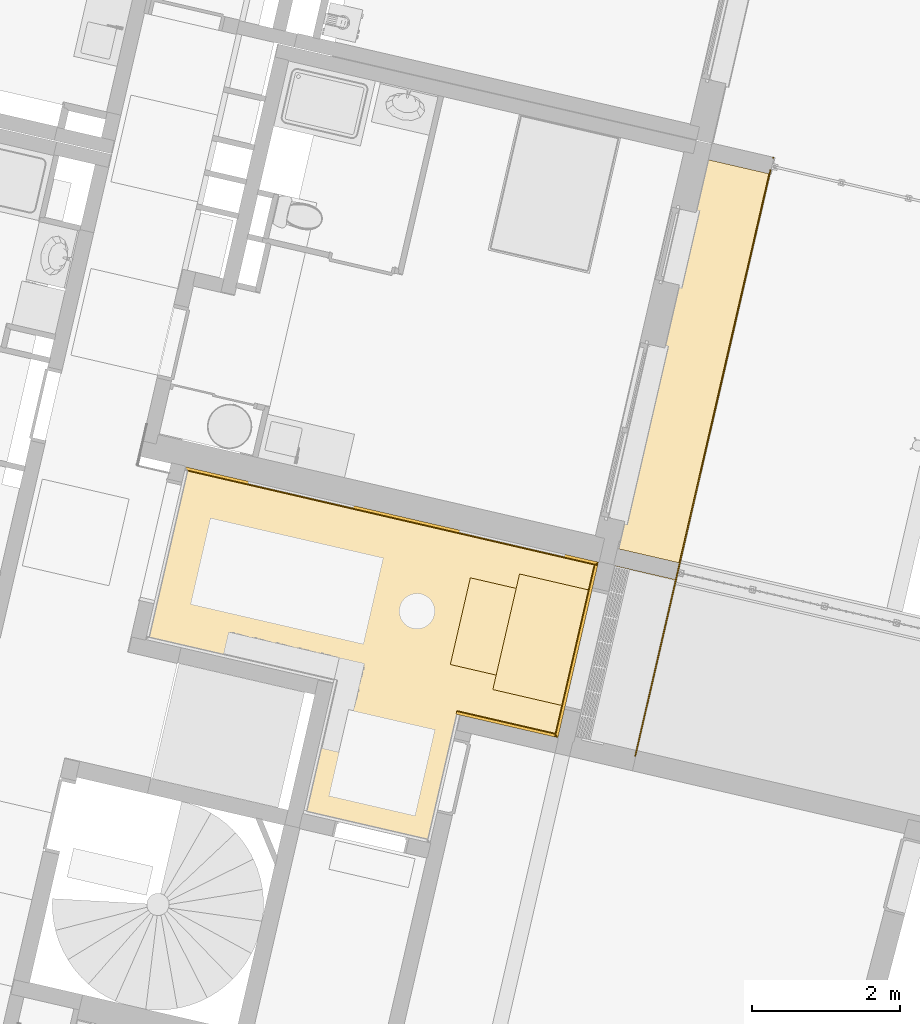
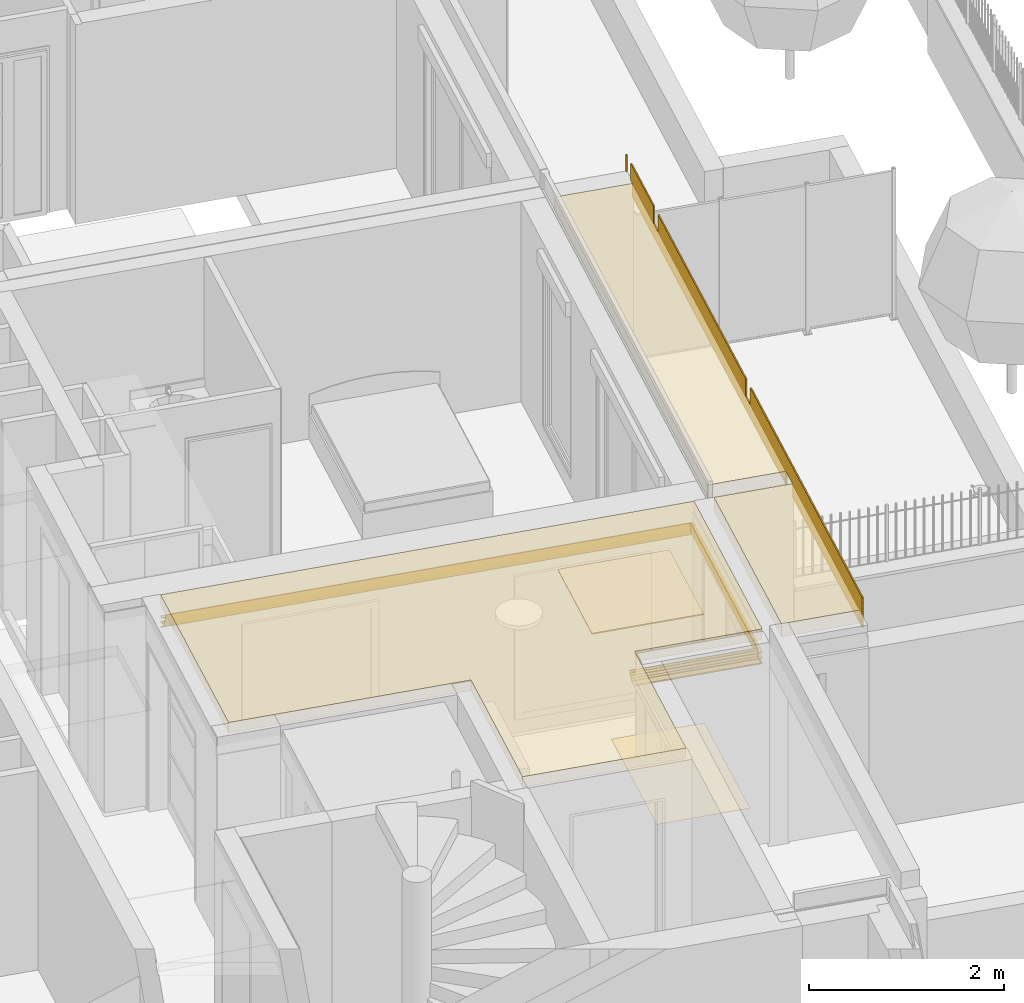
# One storey, part 75 of 119: 8 coverings.
"""IFC2X3 building model written with IfcOpenShell, lengths in metres."""

from ifc_helpers import new_model, entity, si_unit, converted_unit, derived_unit, money_unit, direction, frame, origin_with_axes, place, context, subcontext, project, spatial, open_shell, faceted_brep, surface_model, material, material_list, type_object, element, save


model = new_model("IFC2X3")

# Units and contexts
model_context = context("Model", 3, precision=1e-05, world=origin_with_axes(), true_north=direction((0.0, 1.0)))
body_context = subcontext(model_context, "Body", "Model", "MODEL_VIEW")
ifc_project = project(units=[si_unit("LENGTHUNIT", "METRE"), si_unit("AREAUNIT", "SQUARE_METRE"), si_unit("VOLUMEUNIT", "CUBIC_METRE"), converted_unit("PLANEANGLEUNIT", "DEGREE", entity("IfcPlaneAngleMeasure", 0.0174532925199), si_unit("PLANEANGLEUNIT", "RADIAN"), dimensions=[0, 0, 0, 0, 0, 0, 0]), si_unit("SOLIDANGLEUNIT", "STERADIAN"), money_unit("EUR"), converted_unit("TIMEUNIT", "Year", entity("IfcTimeMeasure", 31556926.0), si_unit("TIMEUNIT", "SECOND"), dimensions=[0, 0, 1, 0, 0, 0, 0]), si_unit("MASSUNIT", "GRAM", prefix="KILO"), si_unit("THERMODYNAMICTEMPERATUREUNIT", "DEGREE_CELSIUS"), si_unit("LUMINOUSINTENSITYUNIT", "LUMEN"), si_unit("ENERGYUNIT", "JOULE", prefix="MEGA"), derived_unit("THERMALCONDUCTANCEUNIT", [(si_unit("POWERUNIT", "WATT"), 1), (si_unit("LENGTHUNIT", "METRE"), -1), (si_unit("THERMODYNAMICTEMPERATUREUNIT", "KELVIN"), -1)]), derived_unit("SPECIFICHEATCAPACITYUNIT", [(si_unit("ENERGYUNIT", "JOULE"), 1), (si_unit("MASSUNIT", "GRAM", prefix="KILO"), -1), (si_unit("THERMODYNAMICTEMPERATUREUNIT", "KELVIN"), -1)]), derived_unit("MASSDENSITYUNIT", [(si_unit("MASSUNIT", "GRAM", prefix="KILO"), 1), (si_unit("VOLUMEUNIT", "CUBIC_METRE"), -1)])], contexts=[model_context])

# Site, building, storey
site_placement = place(None, origin_with_axes())
site = spatial("IfcSite", under=ifc_project, at=site_placement, Name="Site", CompositionType="ELEMENT")
building_placement = place(site_placement, origin_with_axes())
building = spatial("IfcBuilding", under=site, at=building_placement, Name="Bâtiment", CompositionType="ELEMENT")
storey_placement = place(building_placement, origin_with_axes())
storey = spatial("IfcBuildingStorey", under=building, at=storey_placement, Name="Rez-de-chaussée", CompositionType="ELEMENT", Elevation=0.0)

# Coverings
ifc_material_1 = material(Name="Finition int - Plaque de plâtre ACOUSTIQUE type GYPTONE")
covering_type_1 = type_object("IfcCoveringType", Name="Finition int - Plaque de plâtre ACOUSTIQUE type GYPTONE 15", PredefinedType="CEILING")
covering_1_placement = place(storey_placement, frame((-5.586084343, -4.45055755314, 2.392), z_axis=(0.0, 0.0, 1.0), x_axis=(1.0, 0.0, 0.0)))
element("IfcCovering", 1, at=covering_1_placement, inside=storey, type_object=covering_type_1, material=ifc_material_1, Name="Dalle_004", PredefinedType="CEILING", context=body_context, shape_type="Brep", body=[
    faceted_brep([(0.0, 0.0, 0.0), (0.0, 0.0, -0.015), (1.16926481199, -0.269851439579, -0.015), (1.16926481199, -0.269851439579, 0.0), (0.269851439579, 1.16926481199, 0.0), (0.269851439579, 1.16926481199, -0.015), (1.43911625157, 0.899413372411, -0.015), (1.43911625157, 0.899413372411, 0.0)], [[[0, 1, 2, 3]], [[4, 5, 1, 0]], [[2, 1, 5, 6]], [[3, 2, 6, 7]], [[4, 0, 3, 7]], [[7, 6, 5, 4]]]),
])
ifc_material_2 = material(Name="Isolation - Laine de verre")
ifc_material_3 = material(Name="Finition int - Plaque de plâtre")
ifc_material_list_1 = material_list([ifc_material_2, ifc_material_3])
covering_type_2 = type_object("IfcCoveringType", Name="7 - Faux-plafond BA13 isolé laine 120mm 133", PredefinedType="CEILING")
covering_2_placement = place(storey_placement, frame((-9.69538604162, -4.11282317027, 2.51), z_axis=(0.0, 0.0, 1.0), x_axis=(1.0, 0.0, 0.0)))
element("IfcCovering", 2, at=covering_2_placement, inside=storey, type_object=covering_type_2, material=ifc_material_list_1, Name="Dalle_004", PredefinedType="CEILING", context=body_context, shape_type="Brep", body=[
    faceted_brep([(5.57796008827, -1.28732215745, 0.0), (6.11541420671, 1.0414635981, 0.0), (0.537454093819, 2.32878576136, 0.0), (0.0, 0.0, 0.0), (2.53340705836, -0.584678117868, 0.0), (2.12638112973, -2.34831921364, 0.0), (3.83643093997, -2.74297689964, 0.0), (4.2434568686, -0.979335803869, 0.0), (6.11541420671, 1.0414635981, -0.12), (5.57796008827, -1.28732215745, -0.12), (0.537454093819, 2.32878576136, -0.12), (0.0, 0.0, -0.12), (2.53340705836, -0.584678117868, -0.12), (2.12638112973, -2.34831921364, -0.12), (3.83643093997, -2.74297689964, -0.12), (4.2434568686, -0.979335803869, -0.12)], [[[0, 1, 2, 3, 4, 5, 6, 7]], [[8, 1, 0, 9]], [[1, 8, 10, 2]], [[10, 11, 3, 2]], [[11, 12, 4, 3]], [[12, 13, 5, 4]], [[13, 14, 6, 5]], [[14, 15, 7, 6]], [[9, 0, 7, 15]], [[8, 9, 15, 14, 13, 12, 11, 10]]]),
    faceted_brep([(5.57796008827, -1.28732215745, -0.12), (6.11541420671, 1.0414635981, -0.12), (0.537454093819, 2.32878576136, -0.12), (0.0, 0.0, -0.12), (2.53340705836, -0.584678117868, -0.12), (2.12638112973, -2.34831921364, -0.12), (3.83643093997, -2.74297689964, -0.12), (4.2434568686, -0.979335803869, -0.12), (6.11541420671, 1.0414635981, -0.133), (5.57796008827, -1.28732215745, -0.133), (0.537454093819, 2.32878576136, -0.133), (0.0, 0.0, -0.133), (2.53340705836, -0.584678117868, -0.133), (2.12638112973, -2.34831921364, -0.133), (3.83643093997, -2.74297689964, -0.133), (4.2434568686, -0.979335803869, -0.133)], [[[0, 1, 2, 3, 4, 5, 6, 7]], [[8, 1, 0, 9]], [[1, 8, 10, 2]], [[2, 10, 11, 3]], [[3, 11, 12, 4]], [[4, 12, 13, 5]], [[5, 13, 14, 6]], [[6, 14, 15, 7]], [[9, 0, 7, 15]], [[8, 9, 15, 14, 13, 12, 11, 10]]]),
])
ifc_material_4 = material(Name="Isolation - Polystyrène extrudé")
ifc_material_5 = material(Name="Finition int - Plaque de plâtre extérieure 13mm")
ifc_material_list_2 = material_list([ifc_material_4, ifc_material_5])
covering_type_3 = type_object("IfcCoveringType", Name="7 - Isolation FYBRASTYROC 150mm sous plancher 165", PredefinedType="INSULATION")
covering_3_placement = place(storey_placement, frame((-3.93041915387, -5.47922413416, 2.51), z_axis=(0.0, 0.0, 1.0), x_axis=(1.0, 0.0, 0.0)))
element("IfcCovering", 3, at=covering_3_placement, inside=storey, type_object=covering_type_3, material=ifc_material_list_2, Name="Dalle_003", PredefinedType="INSULATION", context=body_context, shape_type="Brep", body=[
    faceted_brep([(1.38033830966, 2.17531025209, -0.15), (1.38033830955, 2.17531025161, 0.0), (0.848506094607, -0.129115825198, 0.0), (0.848506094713, -0.129115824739, -0.15), (0.561064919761, 2.36438811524, 0.0), (0.56106491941, 2.36438811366, -0.15), (0.02923275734, 0.0599620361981, 0.0), (0.0292327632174, 0.0599620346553, -0.15)], [[[0, 1, 2, 3]], [[4, 1, 0, 5]], [[1, 4, 6, 2]], [[6, 7, 3, 2]], [[5, 0, 3, 7]], [[4, 5, 7, 6]]]),
    faceted_brep([(2.64338009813, 7.64806340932, -0.15), (2.64338009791, 7.64806340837, 0.0), (1.43205983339, 2.39941933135, 0.0), (1.43205983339, 2.39941933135, -0.15), (1.82410674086, 7.83714127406, 0.0), (1.82410674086, 7.83714127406, -0.15), (0.612786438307, 2.58849720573, 0.0), (0.612786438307, 2.58849720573, -0.15)], [[[0, 1, 2, 3]], [[4, 1, 0, 5]], [[1, 4, 6, 2]], [[3, 2, 6, 7]], [[5, 0, 3, 7]], [[4, 5, 7, 6]]]),
    faceted_brep([(1.38033830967, 2.17531025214, -0.165), (1.38033830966, 2.17531025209, -0.15), (0.848506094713, -0.129115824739, -0.15), (0.848506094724, -0.129115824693, -0.165), (0.56106491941, 2.36438811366, -0.15), (0.561064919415, 2.36438811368, -0.165), (0.0292327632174, 0.0599620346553, -0.15), (0.0292327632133, 0.0599620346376, -0.165)], [[[0, 1, 2, 3]], [[4, 1, 0, 5]], [[1, 4, 6, 2]], [[6, 7, 3, 2]], [[5, 0, 3, 7]], [[4, 5, 7, 6]]]),
    faceted_brep([(2.64338009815, 7.64806340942, -0.165), (2.64338009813, 7.64806340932, -0.15), (1.43205983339, 2.39941933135, -0.15), (1.43205983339, 2.39941933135, -0.165), (1.82410674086, 7.83714127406, -0.15), (1.82410674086, 7.83714127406, -0.165), (0.612786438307, 2.58849720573, -0.15), (0.612786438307, 2.58849720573, -0.165)], [[[0, 1, 2, 3]], [[4, 1, 0, 5]], [[1, 4, 6, 2]], [[3, 2, 6, 7]], [[5, 0, 3, 7]], [[4, 5, 7, 6]]]),
])
ifc_material_6 = material(Name="Finition sol - Carrelage")
covering_type_4 = type_object("IfcCoveringType", Name="Corniche lumineuse 50 x 180", PredefinedType="USERDEFINED")
covering_4_placement = place(storey_placement, frame((-4.13418479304, -5.43732904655, 2.1), z_axis=(0.0, 0.0, 1.0), x_axis=(-0.974387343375, 0.224876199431, 0.0)))
element("IfcCovering", 4, at=covering_4_placement, inside=storey, type_object=covering_type_4, material=ifc_material_6, Name="M_Ext-009", ObjectType="MOLDING", PredefinedType="USERDEFINED", context=body_context, shape_type="Brep", body=[
    faceted_brep([(1.36713537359, -0.00552140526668, 0.0012378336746), (0.00552140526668, -0.00552140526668, 0.00123783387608), (0.0, 1.75416037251e-09, 0.0), (1.36161396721, 0.0, 0.0), (1.37208394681, -0.0104699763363, 0.00447108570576), (0.0104699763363, -0.0104699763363, 0.00447108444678), (0.00552140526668, 1.75416037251e-09, 0.00123783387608), (0.0104699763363, 1.75416037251e-09, 0.00447108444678), (0.0150535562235, 1.75415948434e-09, 0.00999999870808), (1.37666752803, 0.0, 0.0100000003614), (1.37208394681, 0.0, 0.00447108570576), (1.36713537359, 0.0, 0.0012378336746), (1.38001870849, -0.018404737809, 0.0140423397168), (0.018404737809, -0.018404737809, 0.0140423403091), (0.018404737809, -0.00793106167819, 0.0140423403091), (0.0176884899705, -0.00728579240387, 0.0131783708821), (0.0157136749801, -0.00365822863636, 0.0107962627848), (1.37732764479, -0.00365822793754, 0.0107962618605), (1.37930246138, -0.00728579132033, 0.0131783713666), (1.38001870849, -0.00793105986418, 0.0140423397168), (1.38457703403, -0.0229630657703, 0.0223424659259), (0.0229630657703, -0.0229630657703, 0.0223424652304), (0.0229630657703, -0.0141301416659, 0.0223424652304), (0.0230765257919, -0.0143278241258, 0.0226071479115), (1.38469049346, -0.0143278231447, 0.0226071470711), (1.38457703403, -0.0141301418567, 0.0223424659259), (1.3889744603, -0.027360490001, 0.032600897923), (0.027360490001, -0.027360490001, 0.0326008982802), (0.027360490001, -0.0185426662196, 0.0326008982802), (0.0297170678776, -0.0217720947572, 0.0402581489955), (1.39133103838, -0.0217720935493, 0.0402581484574), (1.3889744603, -0.0185426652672, 0.032600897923), (1.39696931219, -0.0353553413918, 0.0585786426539), (0.0353553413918, -0.0353553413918, 0.0585786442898), (0.0353553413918, -0.0267066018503, 0.0585786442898), (0.0353911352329, -0.0267542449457, 0.0587555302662), (1.39700510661, -0.0267542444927, 0.058755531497), (1.39696931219, -0.0267066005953, 0.0585786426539), (1.40344701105, -0.041833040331, 0.0905901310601), (0.041833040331, -0.041833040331, 0.0905901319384), (0.041833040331, -0.0322835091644, 0.0905901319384), (0.0400141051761, -0.0311721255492, 0.0816013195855), (0.0397780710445, -0.0305159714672, 0.0804348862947), (0.0396786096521, -0.0292711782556, 0.0799433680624), (0.0394717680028, -8.21932744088e-10, 0.0789211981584), (0.037871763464, -1.05185398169e-07, 0.0710142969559), (0.0376830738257, -0.0267024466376, 0.0700818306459), (0.0375300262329, -0.0281999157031, 0.0693255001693), (0.0372000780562, -0.0285946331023, 0.067694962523), (1.39881404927, -0.0285946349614, 0.0676949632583), (1.40129258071, -0.0292711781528, 0.0799433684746), (1.40139204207, -0.0305159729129, 0.0804348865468), (1.40162807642, -0.031172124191, 0.081601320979), (1.40344701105, -0.0322835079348, 0.0905901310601), (1.39914399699, -0.0281999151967, 0.0693254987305), (1.39929704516, -0.0267024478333, 0.0700818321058), (1.3994857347, 0.0, 0.0710142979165), (1.40108573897, 0.0, 0.0789211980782), (1.40810338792, -0.0464894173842, 0.126381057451), (0.0464894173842, -0.0464894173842, 0.126381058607), (0.0464894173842, -0.0367087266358, 0.126381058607), (0.0474099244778, -0.0381359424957, 0.13792430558), (1.40902389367, -0.0381359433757, 0.137924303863), (1.40810338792, -0.0367087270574, 0.126381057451), (1.41023865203, -0.0486246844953, 0.153157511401), (0.0486246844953, -0.0486246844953, 0.153157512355), (0.0486246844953, -0.0390485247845, 0.153157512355), (0.0485190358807, -0.039012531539, 0.151832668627), (0.0484134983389, -0.0384178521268, 0.15050921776), (0.0483677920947, -0.0370849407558, 0.149936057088), (0.0482645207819, 1.75415948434e-09, 0.148641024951), (0.0476820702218, 1.75416037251e-09, 0.141337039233), (0.0475812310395, -0.0362113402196, 0.140072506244), (0.0475282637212, -0.037631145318, 0.139408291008), (1.40914223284, -0.0376311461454, 0.139408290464), (1.4099817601, -0.0370849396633, 0.149936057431), (1.41002746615, -0.0384178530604, 0.150509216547), (1.4101330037, -0.039012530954, 0.151832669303), (1.41023865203, -0.0390485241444, 0.153157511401), (1.40919520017, -0.036211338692, 0.140072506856), (1.40929603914, 0.0, 0.141337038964), (1.40987848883, 0.0, 0.14864102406), (1.41137128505, -0.0497573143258, 0.179999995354), (0.0497573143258, -0.0497573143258, 0.179999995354), (0.0497573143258, -0.039777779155, 0.179999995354), (1.41137128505, -0.0397777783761, 0.179999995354)], [[[0, 1, 2, 3]], [[4, 5, 1, 0]], [[1, 6, 2]], [[6, 7, 8, 9, 10, 11, 3, 2]], [[11, 0, 3]], [[12, 13, 5, 4]], [[6, 1, 5, 7]], [[4, 0, 11, 10]], [[7, 5, 13, 14, 15, 16, 8]], [[9, 8, 16, 17]], [[9, 17, 18, 19, 12, 4, 10]], [[20, 21, 13, 12]], [[14, 13, 21, 22]], [[14, 22, 23, 24, 25, 19, 18, 15]], [[17, 16, 15, 18]], [[20, 12, 19, 25]], [[26, 27, 21, 20]], [[22, 21, 27, 28, 23]], [[23, 28, 29, 30, 31, 24]], [[20, 25, 24, 31, 26]], [[32, 33, 27, 26]], [[28, 27, 33, 34, 29]], [[29, 34, 35, 36, 37, 30]], [[26, 31, 30, 37, 32]], [[38, 39, 33, 32]], [[34, 33, 39, 40, 41, 42, 43, 44, 45, 46, 47, 48, 35]], [[36, 35, 48, 49]], [[50, 51, 52, 53, 38, 32, 37, 36, 49, 54, 55, 56, 57]], [[58, 59, 39, 38]], [[40, 39, 59, 60]], [[40, 60, 61, 62, 63, 53, 52, 41]], [[51, 42, 41, 52]], [[50, 43, 42, 51]], [[57, 44, 43, 50]], [[56, 45, 44, 57]], [[55, 46, 45, 56]], [[54, 47, 46, 55]], [[49, 48, 47, 54]], [[58, 38, 53, 63]], [[64, 65, 59, 58]], [[60, 59, 65, 66, 67, 68, 69, 70, 71, 72, 73, 61]], [[62, 61, 73, 74]], [[75, 76, 77, 78, 64, 58, 63, 62, 74, 79, 80, 81]], [[82, 83, 65, 64]], [[66, 65, 83, 84]], [[67, 66, 84, 85, 78, 77]], [[76, 68, 67, 77]], [[75, 69, 68, 76]], [[81, 70, 69, 75]], [[80, 71, 70, 81]], [[79, 72, 71, 80]], [[74, 73, 72, 79]], [[82, 64, 78, 85]], [[85, 84, 83, 82]]]),
])
covering_5_placement = place(storey_placement, frame((-9.15793192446, -1.78403737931, 2.1), z_axis=(0.0, 0.0, 1.0), x_axis=(0.974387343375, -0.224876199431, 0.0)))
element("IfcCovering", 5, at=covering_5_placement, inside=storey, type_object=covering_type_4, material=ifc_material_6, Name="M_Ext-008", ObjectType="MOLDING", PredefinedType="USERDEFINED", context=body_context, shape_type="Brep", body=[
    faceted_brep([(5.67760143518, -0.039012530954, 0.151832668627), (0.039012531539, -0.039012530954, 0.151832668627), (0.039777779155, -0.0397777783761, 0.179999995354), (5.67683618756, -0.0397777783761, 0.179999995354), (5.67819611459, -0.0384178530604, 0.15050921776), (0.0384178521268, -0.0384178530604, 0.15050921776), (0.0390485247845, -0.0486246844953, 0.153157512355), (0.039777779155, -0.0497573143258, 0.179999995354), (0.039012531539, -0.0485190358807, 0.151832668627), (5.67683618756, -0.0497573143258, 0.179999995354), (5.67760143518, -0.0485190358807, 0.151832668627), (5.67756544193, -0.0486246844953, 0.153157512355), (5.67952902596, -0.0370849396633, 0.149936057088), (0.0370849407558, -0.0370849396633, 0.149936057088), (0.0384178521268, -0.0484134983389, 0.15050921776), (5.67819611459, -0.0484134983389, 0.15050921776), (0.037631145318, -0.0475282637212, 0.139408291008), (0.0381359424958, -0.0474099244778, 0.13792430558), (0.0367087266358, -0.0464894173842, 0.126381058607), (5.67990524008, -0.0464894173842, 0.126381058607), (5.67847802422, -0.0474099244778, 0.13792430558), (5.6789828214, -0.0475282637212, 0.139408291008), (5.6804026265, -0.0475812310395, 0.140072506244), (5.71661396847, -0.0476820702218, 0.141337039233), (5.71661396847, -0.0482645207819, 0.148641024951), (5.67952902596, -0.0483677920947, 0.149936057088), (0.0370849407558, -0.0483677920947, 0.149936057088), (-1.75415948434e-09, -0.0482645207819, 0.148641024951), (-1.75415948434e-09, -0.0476820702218, 0.141337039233), (0.0362113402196, -0.0475812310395, 0.140072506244), (5.71661396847, 0.0, 0.148641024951), (-1.75415948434e-09, 0.0, 0.148641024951), (0.037631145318, -0.0376311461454, 0.139408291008), (0.0381359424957, -0.0381359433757, 0.13792430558), (0.0311721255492, -0.031172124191, 0.0816013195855), (0.0311721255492, -0.0400141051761, 0.0816013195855), (0.0322835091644, -0.041833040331, 0.0905901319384), (5.68433045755, -0.041833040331, 0.0905901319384), (5.68544184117, -0.0400141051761, 0.0816013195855), (5.68544184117, -0.031172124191, 0.0816013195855), (5.67847802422, -0.0381359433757, 0.13792430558), (5.6789828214, -0.0376311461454, 0.139408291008), (5.6804026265, -0.036211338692, 0.140072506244), (5.71661396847, 0.0, 0.141337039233), (-1.75415948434e-09, 0.0, 0.141337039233), (0.0362113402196, -0.036211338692, 0.140072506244), (0.0305159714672, -0.0305159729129, 0.0804348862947), (0.0305159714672, -0.0397780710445, 0.0804348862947), (0.0285946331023, -0.0372000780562, 0.067694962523), (0.0267542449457, -0.0353911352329, 0.0587555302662), (0.0267066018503, -0.0353553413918, 0.0585786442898), (5.68990736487, -0.0353553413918, 0.0585786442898), (5.68985972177, -0.0353911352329, 0.0587555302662), (5.68801933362, -0.0372000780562, 0.067694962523), (5.68841405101, -0.0375300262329, 0.0693255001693), (5.68991152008, -0.0376830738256, 0.0700818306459), (5.71661386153, -0.037871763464, 0.0710142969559), (5.7166139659, -0.0394717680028, 0.0789211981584), (5.68734278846, -0.0396786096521, 0.0799433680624), (5.68609799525, -0.0397780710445, 0.0804348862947), (0.0292711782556, -0.0396786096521, 0.0799433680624), (8.21932744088e-10, -0.0394717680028, 0.0789211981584), (1.05185405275e-07, -0.037871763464, 0.0710142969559), (0.0267024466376, -0.0376830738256, 0.0700818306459), (0.0281999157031, -0.0375300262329, 0.0693255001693), (5.68609799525, -0.0305159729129, 0.0804348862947), (0.0292711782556, -0.0292711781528, 0.0799433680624), (0.0285946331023, -0.0285946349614, 0.067694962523), (0.0267542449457, -0.0267542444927, 0.0587555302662), (0.0217720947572, -0.0217720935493, 0.0402581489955), (0.0217720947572, -0.0297170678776, 0.0402581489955), (0.0185426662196, -0.027360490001, 0.0326008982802), (5.6980713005, -0.027360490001, 0.0326008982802), (5.69484187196, -0.0297170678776, 0.0402581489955), (5.69484187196, -0.0217720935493, 0.0402581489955), (5.68985972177, -0.0267542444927, 0.0587555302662), (5.68801933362, -0.0285946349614, 0.067694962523), (5.68841405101, -0.0281999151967, 0.0693255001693), (5.68991152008, -0.0267024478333, 0.0700818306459), (5.71661386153, 0.0, 0.0710142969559), (5.7166139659, 0.0, 0.0789211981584), (5.68734278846, -0.0292711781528, 0.0799433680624), (8.21932744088e-10, 0.0, 0.0789211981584), (1.05185403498e-07, 0.0, 0.0710142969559), (0.0267024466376, -0.0267024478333, 0.0700818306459), (0.0281999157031, -0.0281999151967, 0.0693255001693), (0.0143278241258, -0.0143278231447, 0.0226071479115), (0.0143278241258, -0.0230765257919, 0.0226071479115), (0.0141301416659, -0.0229630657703, 0.0223424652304), (5.70248382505, -0.0229630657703, 0.0223424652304), (5.70228614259, -0.0230765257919, 0.0226071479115), (5.70228614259, -0.0143278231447, 0.0226071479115), (0.00728579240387, -0.00728579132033, 0.0131783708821), (0.00728579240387, -0.0176884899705, 0.0131783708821), (0.00793106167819, -0.018404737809, 0.0140423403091), (5.70868290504, -0.018404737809, 0.0140423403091), (5.70932817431, -0.0176884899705, 0.0131783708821), (5.70932817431, -0.00728579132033, 0.0131783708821), (0.00365822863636, -0.00365822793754, 0.0107962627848), (0.00365822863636, -0.0157136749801, 0.0107962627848), (-1.75416126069e-09, -0.0150535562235, 0.00999999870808), (-1.75416126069e-09, -0.0104699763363, 0.00447108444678), (5.71661396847, -0.0104699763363, 0.00447108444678), (5.71661396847, -0.0150535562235, 0.00999999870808), (5.71295573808, -0.0157136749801, 0.0107962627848), (5.71295573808, -0.00365822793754, 0.0107962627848), (-1.75415948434e-09, 0.0, 0.00999999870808), (-1.75415948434e-09, 0.0, 0.0), (-1.75415948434e-09, -0.00552140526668, 0.00123783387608), (5.71661396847, -0.00552140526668, 0.00123783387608), (5.71661396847, 0.0, 0.0), (5.71661396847, 0.0, 0.00999999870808)], [[[0, 1, 2, 3]], [[4, 5, 1, 0]], [[6, 7, 2, 1, 8]], [[3, 2, 7, 9]], [[10, 0, 3, 9, 11]], [[12, 13, 5, 4]], [[8, 1, 5, 14]], [[15, 4, 0, 10]], [[9, 7, 6, 11]], [[16, 17, 18, 19, 20, 21, 22, 23, 24, 25, 15, 10, 11, 6, 8, 14, 26, 27, 28, 29]], [[30, 31, 13, 12]], [[14, 5, 13, 26]], [[25, 12, 4, 15]], [[16, 32, 33, 17]], [[17, 33, 34, 35, 36, 18]], [[19, 18, 36, 37]], [[38, 39, 40, 20, 19, 37]], [[20, 40, 41, 21]], [[21, 41, 42, 22]], [[22, 42, 43, 23]], [[23, 43, 30, 24]], [[24, 30, 12, 25]], [[26, 13, 31, 27]], [[27, 31, 44, 28]], [[28, 44, 45, 29]], [[29, 45, 32, 16]], [[43, 44, 31, 30]], [[40, 33, 32, 41]], [[39, 34, 33, 40]], [[35, 34, 46, 47]], [[48, 49, 50, 51, 52, 53, 54, 55, 56, 57, 58, 59, 38, 37, 36, 35, 47, 60, 61, 62, 63, 64]], [[59, 65, 39, 38]], [[41, 32, 45, 42]], [[42, 45, 44, 43]], [[65, 46, 34, 39]], [[47, 46, 66, 60]], [[48, 67, 68, 49]], [[49, 68, 69, 70, 50]], [[50, 70, 71, 72, 73, 51]], [[73, 74, 75, 52, 51]], [[52, 75, 76, 53]], [[53, 76, 77, 54]], [[54, 77, 78, 55]], [[55, 78, 79, 56]], [[56, 79, 80, 57]], [[57, 80, 81, 58]], [[58, 81, 65, 59]], [[60, 66, 82, 61]], [[61, 82, 83, 62]], [[62, 83, 84, 63]], [[63, 84, 85, 64]], [[64, 85, 67, 48]], [[81, 66, 46, 65]], [[75, 68, 67, 76]], [[74, 69, 68, 75]], [[70, 69, 86, 87, 71]], [[71, 87, 88, 89, 90, 72]], [[90, 91, 74, 73, 72]], [[76, 67, 85, 77]], [[77, 85, 84, 78]], [[78, 84, 83, 79]], [[79, 83, 82, 80]], [[80, 82, 66, 81]], [[91, 86, 69, 74]], [[87, 86, 92, 93, 94, 88]], [[89, 88, 94, 95]], [[96, 97, 91, 90, 89, 95]], [[97, 92, 86, 91]], [[93, 92, 98, 99]], [[99, 100, 101, 102, 103, 104, 96, 95, 94, 93]], [[104, 105, 97, 96]], [[105, 98, 92, 97]], [[99, 98, 106, 100]], [[100, 106, 107, 108, 101]], [[102, 101, 108, 109]], [[109, 110, 111, 103, 102]], [[103, 111, 105, 104]], [[111, 106, 98, 105]], [[110, 107, 106, 111]], [[109, 108, 107, 110]]]),
])
covering_6_placement = place(storey_placement, frame((-3.58773562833, -3.06956780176, 2.1), z_axis=(0.0, 0.0, 1.0), x_axis=(-0.224876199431, -0.974387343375, 0.0)))
element("IfcCovering", 6, at=covering_6_placement, inside=storey, type_object=covering_type_4, material=ifc_material_6, Name="M_Ext-009", ObjectType="MOLDING", PredefinedType="USERDEFINED", context=body_context, shape_type="Brep", body=[
    faceted_brep([(2.43000000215, -0.00552140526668, 0.00123783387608), (0.00552140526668, -0.00552140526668, 0.00123783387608), (0.0, 1.75415904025e-09, 0.0), (2.43000000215, 0.0, 0.0), (2.43000000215, -0.0104699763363, 0.00447108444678), (0.0104699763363, -0.0104699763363, 0.00447108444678), (0.00552140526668, 1.75415948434e-09, 0.00123783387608), (0.0104699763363, 1.75415904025e-09, 0.00447108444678), (0.0150535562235, 1.75415859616e-09, 0.00999999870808), (2.43000000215, 0.0, 0.00999999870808), (2.43000000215, -0.0150535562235, 0.00999999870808), (2.42206893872, -0.018404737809, 0.0140423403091), (0.018404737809, -0.018404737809, 0.0140423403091), (2.42634177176, -0.0157136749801, 0.0107962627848), (2.42271420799, -0.0176884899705, 0.0131783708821), (0.0157136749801, -0.00365822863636, 0.0107962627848), (0.018404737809, -0.00793106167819, 0.0140423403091), (0.0176884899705, -0.00728579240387, 0.0131783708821), (2.42634177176, -0.00365822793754, 0.0107962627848), (2.41586985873, -0.0229630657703, 0.0223424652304), (0.0229630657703, -0.0229630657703, 0.0223424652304), (2.42271420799, -0.00728579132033, 0.0131783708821), (2.41567217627, -0.0230765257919, 0.0226071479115), (2.41567217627, -0.0143278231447, 0.0226071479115), (0.0229630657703, -0.0141301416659, 0.0223424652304), (0.0230765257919, -0.0143278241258, 0.0226071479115), (2.41145733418, -0.027360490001, 0.0326008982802), (0.027360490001, -0.027360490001, 0.0326008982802), (2.40822790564, -0.0217720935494, 0.0402581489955), (2.40822790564, -0.0297170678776, 0.0402581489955), (0.027360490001, -0.0185426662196, 0.0326008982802), (0.0297170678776, -0.0217720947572, 0.0402581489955), (2.40329339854, -0.0353553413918, 0.0585786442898), (0.0353553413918, -0.0353553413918, 0.0585786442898), (2.40324575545, -0.0267542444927, 0.0587555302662), (2.40324575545, -0.0353911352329, 0.0587555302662), (0.0353553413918, -0.0267066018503, 0.0585786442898), (0.0353911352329, -0.0267542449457, 0.0587555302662), (2.39771649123, -0.041833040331, 0.0905901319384), (0.041833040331, -0.041833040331, 0.0905901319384), (2.40140536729, -0.0372000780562, 0.067694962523), (2.40180008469, -0.0375300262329, 0.0693255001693), (2.40329755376, -0.0376830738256, 0.0700818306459), (2.42999989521, -0.037871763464, 0.0710142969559), (2.42999999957, -0.0394717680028, 0.0789211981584), (2.40072882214, -0.0396786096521, 0.0799433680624), (2.39948402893, -0.0397780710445, 0.0804348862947), (2.39882787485, -0.0400141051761, 0.0816013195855), (2.40140536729, -0.0285946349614, 0.067694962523), (0.0396786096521, -0.0292711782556, 0.0799433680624), (0.0394717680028, -8.21919421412e-10, 0.0789211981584), (0.037871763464, -1.05185394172e-07, 0.0710142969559), (0.0376830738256, -0.0267024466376, 0.0700818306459), (0.0375300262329, -0.0281999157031, 0.0693255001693), (0.0372000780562, -0.0285946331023, 0.067694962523), (0.041833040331, -0.0322835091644, 0.0905901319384), (0.0400141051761, -0.0311721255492, 0.0816013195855), (0.0397780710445, -0.0305159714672, 0.0804348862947), (2.39329127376, -0.0464894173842, 0.126381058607), (0.0464894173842, -0.0464894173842, 0.126381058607), (2.40180008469, -0.0281999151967, 0.0693255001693), (2.40329755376, -0.0267024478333, 0.0700818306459), (2.42999989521, 0.0, 0.0710142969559), (2.42999999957, 0.0, 0.0789211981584), (2.40072882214, -0.0292711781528, 0.0799433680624), (2.39948402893, -0.0305159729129, 0.0804348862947), (2.39882787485, -0.031172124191, 0.0816013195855), (2.3918640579, -0.0474099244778, 0.13792430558), (2.3918640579, -0.0381359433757, 0.13792430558), (0.0464894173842, -0.0367087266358, 0.126381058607), (0.0474099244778, -0.0381359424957, 0.13792430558), (2.39095147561, -0.0486246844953, 0.153157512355), (0.0486246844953, -0.0486246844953, 0.153157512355), (2.39236885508, -0.0475282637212, 0.139408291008), (2.39378866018, -0.0475812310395, 0.140072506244), (2.43000000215, -0.0476820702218, 0.141337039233), (2.43000000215, -0.0482645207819, 0.148641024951), (2.39291505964, -0.0483677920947, 0.149936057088), (2.39158214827, -0.0484134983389, 0.15050921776), (2.39098746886, -0.0485190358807, 0.151832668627), (2.39236885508, -0.0376311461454, 0.139408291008), (0.0483677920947, -0.0370849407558, 0.149936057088), (0.0482645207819, 1.75415859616e-09, 0.148641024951), (0.0476820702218, 1.75415859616e-09, 0.141337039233), (0.0475812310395, -0.0362113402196, 0.140072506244), (0.0475282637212, -0.037631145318, 0.139408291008), (0.0486246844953, -0.0390485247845, 0.153157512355), (0.0485190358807, -0.039012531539, 0.151832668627), (0.0484134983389, -0.0384178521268, 0.15050921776), (2.39022222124, -0.0497573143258, 0.179999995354), (0.0497573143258, -0.0497573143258, 0.179999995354), (2.39378866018, -0.036211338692, 0.140072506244), (2.43000000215, 0.0, 0.141337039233), (2.43000000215, 0.0, 0.148641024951), (2.39291505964, -0.0370849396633, 0.149936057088), (2.39158214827, -0.0384178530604, 0.15050921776), (2.39098746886, -0.039012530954, 0.151832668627), (2.39022222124, -0.0397777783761, 0.179999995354), (0.0497573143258, -0.039777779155, 0.179999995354)], [[[0, 1, 2, 3]], [[4, 5, 1, 0]], [[1, 6, 2]], [[6, 7, 8, 9, 3, 2]], [[9, 10, 4, 0, 3]], [[11, 12, 5, 4, 10, 13, 14]], [[5, 7, 6, 1]], [[15, 8, 7, 5, 12, 16, 17]], [[9, 8, 15, 18]], [[9, 18, 13, 10]], [[19, 20, 12, 11]], [[18, 21, 14, 13]], [[22, 19, 11, 14, 21, 23]], [[20, 24, 16, 12]], [[16, 24, 25, 23, 21, 17]], [[18, 15, 17, 21]], [[26, 27, 20, 19, 22]], [[28, 29, 26, 22, 23]], [[30, 25, 24, 20, 27]], [[25, 30, 31, 28, 23]], [[32, 33, 27, 26, 29]], [[34, 35, 32, 29, 28]], [[36, 31, 30, 27, 33]], [[31, 36, 37, 34, 28]], [[38, 39, 33, 32, 35, 40, 41, 42, 43, 44, 45, 46, 47]], [[34, 48, 40, 35]], [[49, 50, 51, 52, 53, 54, 37, 36, 33, 39, 55, 56, 57]], [[34, 37, 54, 48]], [[58, 59, 39, 38]], [[48, 60, 41, 40]], [[60, 61, 42, 41]], [[61, 62, 43, 42]], [[62, 63, 44, 43]], [[63, 64, 45, 44]], [[64, 65, 46, 45]], [[65, 66, 47, 46]], [[67, 58, 38, 47, 66, 68]], [[63, 50, 49, 64]], [[62, 51, 50, 63]], [[61, 52, 51, 62]], [[60, 53, 52, 61]], [[48, 54, 53, 60]], [[59, 69, 55, 39]], [[55, 69, 70, 68, 66, 56]], [[65, 57, 56, 66]], [[64, 49, 57, 65]], [[71, 72, 59, 58, 67, 73, 74, 75, 76, 77, 78, 79]], [[68, 80, 73, 67]], [[81, 82, 83, 84, 85, 70, 69, 59, 72, 86, 87, 88]], [[68, 70, 85, 80]], [[89, 90, 72, 71]], [[80, 91, 74, 73]], [[91, 92, 75, 74]], [[92, 93, 76, 75]], [[93, 94, 77, 76]], [[94, 95, 78, 77]], [[95, 96, 79, 78]], [[97, 89, 71, 79, 96]], [[93, 82, 81, 94]], [[92, 83, 82, 93]], [[91, 84, 83, 92]], [[80, 85, 84, 91]], [[90, 98, 86, 72]], [[87, 86, 98, 97, 96]], [[95, 88, 87, 96]], [[94, 81, 88, 95]], [[97, 98, 90, 89]]]),
])
ifc_material_7 = material(Name="Finition ext - Crépis")
covering_type_5 = type_object("IfcCoveringType", Name="Finition ext - Crépis 15", PredefinedType="INSULATION")
covering_7_placement = place(storey_placement, frame((-3.12126753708, -5.84556606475, 2.345), z_axis=(0.0, 0.0, 1.0), x_axis=(0.22487619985, 0.974387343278, 0.0)))
element("IfcCovering", 7, at=covering_7_placement, inside=storey, type_object=covering_type_5, material=ifc_material_7, Name="M_Ext-016", PredefinedType="INSULATION", context=body_context, shape_type="Brep", body=[
    faceted_brep([(4.08334628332, 0.0149999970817, 0.375), (0.159999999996, 0.015, 0.375), (0.16, 0.0, 0.375), (4.08334628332, 0.0, 0.375), (0.159999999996, 0.015, 0.0), (4.08334628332, 0.0149999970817, 0.155), (4.24334628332, 0.014999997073, 0.155), (4.24334628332, 0.014999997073, 0.375), (7.32334628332, 0.0150000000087, 0.375), (7.32334628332, 0.0150000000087, 0.155), (7.48334628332, 0.015, 0.155), (7.48334628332, 0.015, 0.375), (8.27660943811, 0.0149999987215, 0.375), (8.27660943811, 0.0149999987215, 0.165), (8.23660945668, 0.015, 0.165), (8.23660947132, 0.015, 0.0), (2.8200000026, 0.015, 0.0), (2.82000000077, 0.015, 0.165), (2.62000000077, 0.015, 0.165), (2.62000001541, 0.015, 0.0), (0.16, 0.0, 0.0), (2.62000001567, 0.0, 0.0), (2.62000000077, 0.0, 0.165), (2.82000000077, 0.0, 0.165), (2.82000000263, 0.0, 0.0), (8.23660947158, -9.17664388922e-10, 0.0), (8.23660945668, 0.0, 0.165), (8.27660943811, 0.0, 0.165), (8.27660943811, 0.0, 0.375), (7.48334628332, 0.0, 0.375), (7.48334628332, 0.0, 0.155), (7.32334628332, 0.0, 0.155), (7.32334628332, 0.0, 0.375), (4.24334628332, 0.0, 0.375), (4.24334628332, 0.0, 0.155), (4.08334628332, 0.0, 0.155)], [[[0, 1, 2, 3]], [[4, 1, 0, 5, 6, 7, 8, 9, 10, 11, 12, 13, 14, 15, 16, 17, 18, 19]], [[20, 2, 1, 4]], [[3, 2, 20, 21, 22, 23, 24, 25, 26, 27, 28, 29, 30, 31, 32, 33, 34, 35]], [[5, 0, 3, 35]], [[35, 34, 6, 5]], [[34, 33, 7, 6]], [[8, 7, 33, 32]], [[9, 8, 32, 31]], [[31, 30, 10, 9]], [[30, 29, 11, 10]], [[29, 28, 12, 11]], [[28, 27, 13, 12]], [[14, 13, 27, 26]], [[14, 26, 25, 15]], [[16, 15, 25, 24]], [[16, 24, 23, 17]], [[17, 23, 22, 18]], [[18, 22, 21, 19]], [[4, 19, 21, 20]]]),
    faceted_brep([(8.43660943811, 0.0, 0.375), (8.43660945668, 0.0, 0.165), (8.45160945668, 0.0, 0.165), (8.45160865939, 0.0, 0.375), (8.43660943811, 0.0149999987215, 0.375), (8.43660945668, 0.0149999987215, 0.165), (8.45160945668, 0.015, 0.165), (8.45160865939, 0.015, 0.375)], [[[0, 1, 2, 3]], [[4, 5, 1, 0]], [[5, 6, 2, 1]], [[3, 2, 6, 7]], [[7, 4, 0, 3]], [[7, 6, 5, 4]]]),
])
covering_type_6 = type_object("IfcCoveringType", Name="Tapis 23", PredefinedType="FLOORING")
covering_8_placement = place(storey_placement, frame((-5.01273107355, -4.78813737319, 0.0), z_axis=(0.0, 0.0, 1.0), x_axis=(-0.224876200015, -0.97438734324, 0.0)))
element("IfcCovering", 8, at=covering_8_placement, inside=storey, type_object=covering_type_6, Name="MOB-002", PredefinedType="FLOORING", context=body_context, shape_type="SurfaceModel", body=[
    surface_model("IfcShellBasedSurfaceModel", [(0.0, 0.0, 0.001), (0.0, 1.0, 0.001), (-1.6, 1.0, 0.001), (-1.6, 0.0, 0.001)], [open_shell([[[0, 1, 2, 3]]])]),
])

save(model, "model.ifc")
